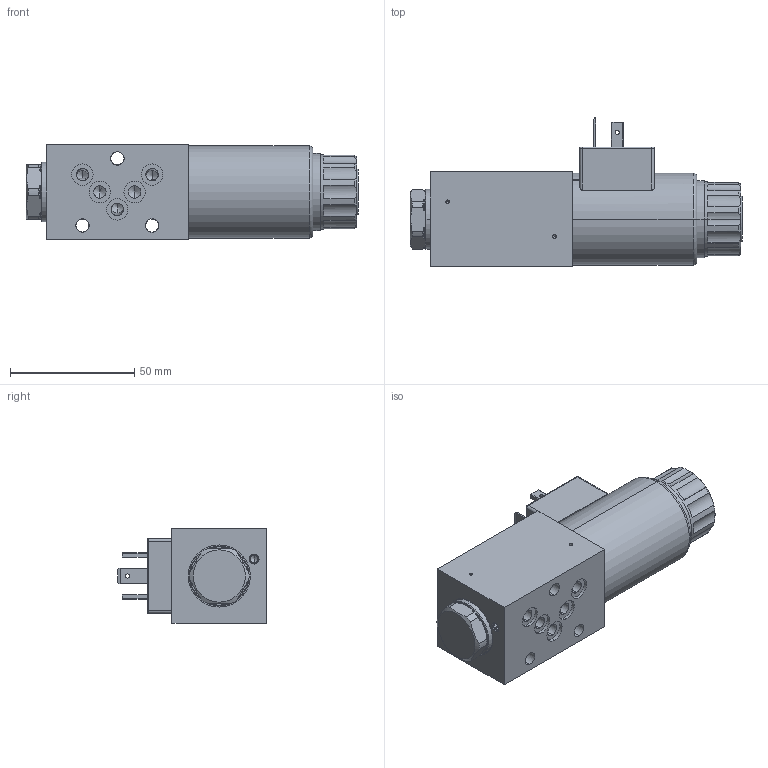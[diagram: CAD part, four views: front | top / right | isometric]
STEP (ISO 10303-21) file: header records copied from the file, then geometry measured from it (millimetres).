
FILE_DESCRIPTION (( 'STEP AP214' ), '1' );
FILE_NAME ('WDMFA04-4_2-Bside.STEP', '2017-03-17T14:05:33', ( '' ), ( '' ), 'SwSTEP 2.0', 'SolidWorks 2016', '' );
FILE_SCHEMA (( 'AUTOMOTIVE_DESIGN' ));
Length unit declared in the file: millimetre
Products named in the file (1): WDMFA04-4_2-Bside
Bounding box: 133.5 x 59.9 x 38 mm (x, y, z)
Volume: 156825.9 mm3; surface area: 29174.7 mm2
Topology: 3 solids, 3 shells, 1160 faces, 3239 edges, 2132 vertices
Faces by surface type: plane 648, cylinder 389, cone 57, bspline 52, torus 14
Entity records: 54891 total; most frequent: CARTESIAN_POINT 12275, ORIENTED_EDGE 6442, DIRECTION 6055, EDGE_CURVE 3221, VERTEX_POINT 2132, LINE 2031, VECTOR 2031, AXIS2_PLACEMENT_3D 2012
